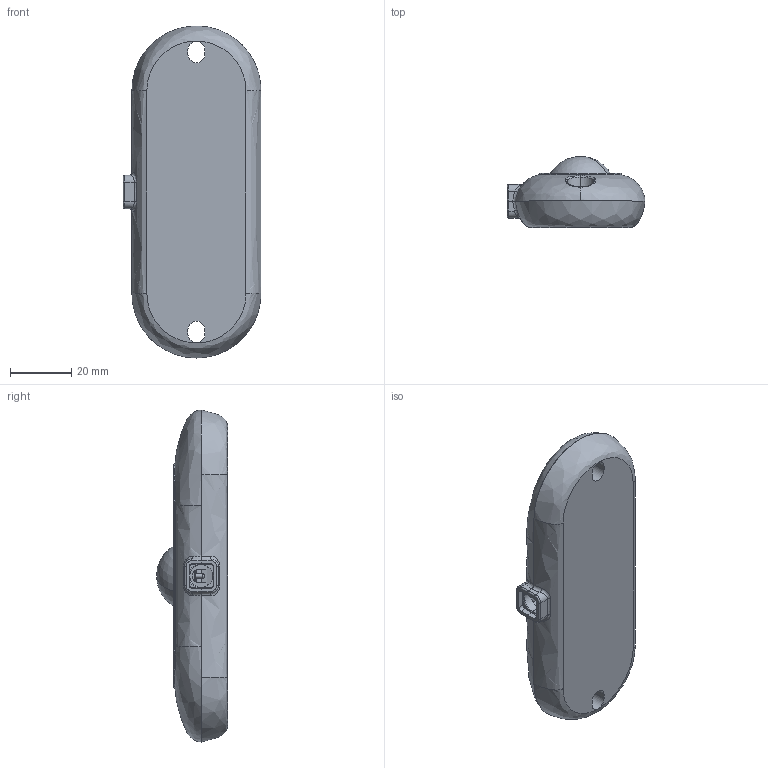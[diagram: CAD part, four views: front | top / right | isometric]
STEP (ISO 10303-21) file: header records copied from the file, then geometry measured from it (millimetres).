
FILE_DESCRIPTION (( 'STEP AP203' ), '1' );
FILE_NAME ('3D_TBL2.STEP', '2019-04-23T08:12:49', ( '' ), ( '' ), 'SwSTEP 2.0', 'SolidWorks 2015', '' );
FILE_SCHEMA (( 'CONFIG_CONTROL_DESIGN' ));
Length unit declared in the file: millimetre
Products named in the file (9): TBL2-感應波罩; 3D_TBL2; TBL2-A-LIGHT; TBL2-A-UPPER; TBL2-A-BASE
Assembly tree (4 placements, depth 2):
  3D_TBL2
    TBL2-A-LIGHT
    TBL2-A-UPPER
    TBL2-A-BASE
    TBL2-感應波罩
  TBL2-A-LIGHT
  TBL2-A-UPPER
  TBL2-A-BASE
  TBL2-感應波罩
Bounding box: 44.89 x 23.1 x 108 mm (x, y, z)
Volume: 29279 mm3; surface area: 27191.6 mm2
Topology: 4 solids, 4 shells, 570 faces, 1461 edges, 910 vertices
Faces by surface type: plane 201, cylinder 146, bspline 140, torus 55, cone 18, sphere 10
Entity records: 33821 total; most frequent: CARTESIAN_POINT 20067, ORIENTED_EDGE 2904, DIRECTION 2421, EDGE_CURVE 1452, VERTEX_POINT 907, AXIS2_PLACEMENT_3D 880, VECTOR 661, LINE 661
